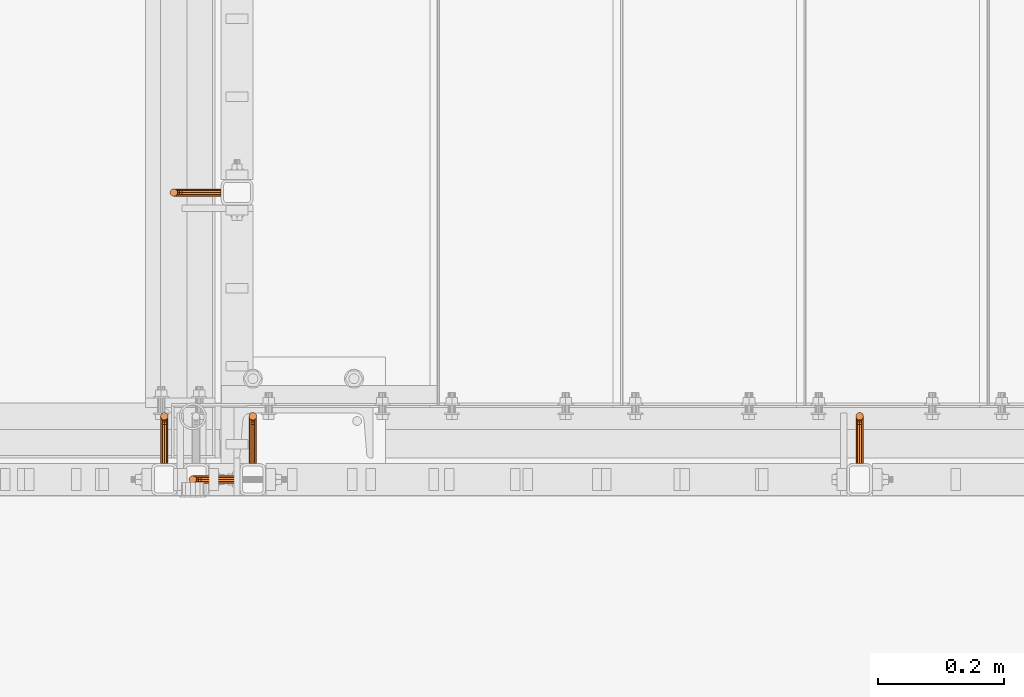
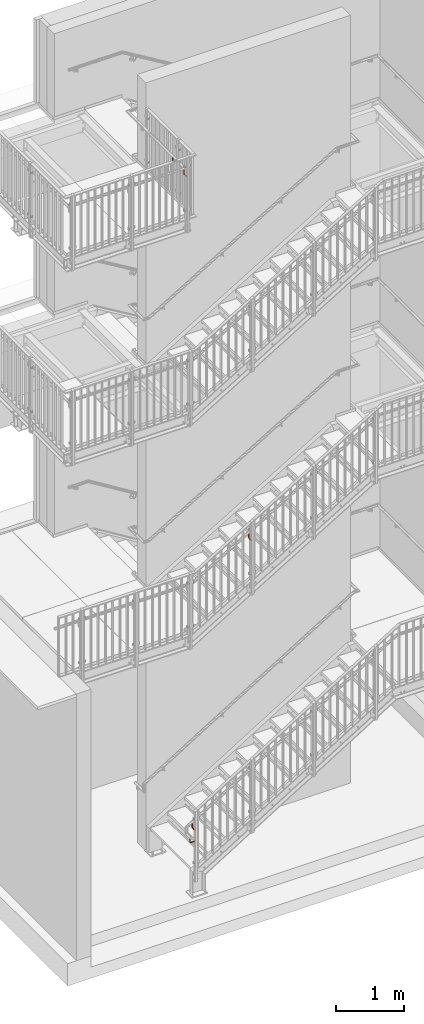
# One storey, part 372 of 410: 5 proxies.
"""IFC2X3 building model written with IfcOpenShell, lengths in millimetres."""

from ifc_helpers import new_model, entity, si_unit, converted_unit, origin_with_axes, place, context, project, spatial, faceted_brep, element, save


model = new_model("IFC2X3")

# Units and contexts
model_context = context("Model", 3, precision=1e-09, world=origin_with_axes())
ifc_project = project(units=[si_unit("LENGTHUNIT", "METRE", prefix="MILLI"), si_unit("AREAUNIT", "SQUARE_METRE"), si_unit("VOLUMEUNIT", "CUBIC_METRE"), converted_unit("PLANEANGLEUNIT", "DEGREE", entity("IfcPlaneAngleMeasure", 0.01745329), si_unit("PLANEANGLEUNIT", "RADIAN"), dimensions=[0, 0, 0, 0, 0, 0, 0])], contexts=[model_context])

# Site, building, storey
site_placement = place(None, origin_with_axes())
site = spatial("IfcSite", under=ifc_project, at=site_placement, Name="mKR Teilneubau & Sanierung BA1 - Ostfildern", CompositionType="ELEMENT")
building_placement = place(site_placement, origin_with_axes())
building = spatial("IfcBuilding", under=site, at=building_placement, Name="Struktur 1", CompositionType="ELEMENT")
storey_placement = place(building_placement, origin_with_axes())
storey = spatial("IfcBuildingStorey", under=building, at=storey_placement, Name="Default Storey", CompositionType="ELEMENT", Elevation=0.0)

# Proxies
proxy_1_placement = place(None, origin_with_axes())
element("IfcBuildingElementProxy", 1, at=proxy_1_placement, inside=storey, ObjectType="-", context=model_context, shape_type="Brep", body=[
    faceted_brep([(-740.194684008, 15430.999999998, 1307.875257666), (-737.998531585, 15430.999999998, 1305.679105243), (-734.998531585, 15430.999999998, 1304.875257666), (-731.998531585, 15430.999999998, 1305.679105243), (-729.802379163, 15430.999999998, 1307.875257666), (-728.998531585, 15430.999999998, 1310.875257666), (-729.802379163, 15430.999999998, 1313.875257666), (-731.998531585, 15430.999999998, 1316.071410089), (-734.998531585, 15430.999999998, 1316.875257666), (-737.998531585, 15430.999999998, 1316.071410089), (-740.194684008, 15430.999999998, 1313.875257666), (-740.998531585, 15430.999999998, 1310.875257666), (-731.998531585, 15487.999999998, 1316.071410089), (-729.802379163, 15487.999999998, 1313.875257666), (-737.998531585, 15487.999999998, 1316.071410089), (-740.194684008, 15487.999999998, 1313.875257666), (-734.998531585, 15487.999999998, 1316.875257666), (-729.802379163, 15493.740251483, 1315.017064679), (-731.998531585, 15492.899820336, 1317.046044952), (-740.998531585, 15487.999999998, 1310.875257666), (-734.998531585, 15492.592201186, 1317.788703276), (-728.998531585, 15487.999999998, 1310.875257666), (-731.998531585, 15497.053687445, 1319.821570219), (-734.998531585, 15496.485281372, 1320.389976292), (-737.998531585, 15492.899820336, 1317.046044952), (-740.194684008, 15493.740251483, 1315.017064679), (-731.998531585, 15499.829212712, 1323.975437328), (-734.998531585, 15499.086554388, 1324.283056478), (-728.998531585, 15494.888301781, 1312.245426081), (-729.802379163, 15498.606601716, 1318.268655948), (-729.802379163, 15487.999999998, 1307.875257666), (-731.998531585, 15487.999999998, 1305.679105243), (-734.998531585, 15487.999999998, 1304.875257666), (-737.998531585, 15487.999999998, 1305.679105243), (-740.194684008, 15487.999999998, 1307.875257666), (-740.998531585, 15494.888301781, 1312.245426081), (-737.998531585, 15497.053687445, 1319.821570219), (-737.998531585, 15499.829212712, 1323.975437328), (-737.29463218, 15500.456722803, 1380.890457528), (-737.998531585, 15500.803847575, 1328.875257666), (-734.998531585, 15499.999999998, 1328.875257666), (-734.998531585, 15499.999999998, 1382.270093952), (-730.755890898, 15510.242640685, 1384.819329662), (-732.702430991, 15511.543277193, 1383.649730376), (-734.998531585, 15511.999999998, 1382.270093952), (-737.29463218, 15511.543277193, 1380.890457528), (-739.241172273, 15510.242640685, 1379.720858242), (-740.541808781, 15508.296100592, 1378.939356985), (-740.998531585, 15505.999999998, 1378.664930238), (-740.541808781, 15503.703899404, 1378.939356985), (-739.241172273, 15501.757359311, 1379.720858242), (-732.702430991, 15500.456722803, 1383.649730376), (-730.755890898, 15501.757359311, 1384.819329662), (-729.45525439, 15503.703899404, 1385.600830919), (-728.998531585, 15505.999999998, 1385.875257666), (-729.45525439, 15508.296100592, 1385.600830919), (-740.194684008, 15496.036352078, 1309.473787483), (-740.194684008, 15498.606601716, 1318.268655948), (-740.998531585, 15500.727922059, 1316.147335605), (-731.998531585, 15500.803847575, 1328.875257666), (-729.802379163, 15501.858192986, 1323.135006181), (-729.802379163, 15496.036352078, 1309.473787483), (-728.998531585, 15500.727922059, 1316.147335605), (-731.998531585, 15496.876783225, 1307.44480721), (-734.998531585, 15497.184402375, 1306.702148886), (-737.998531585, 15496.876783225, 1307.44480721), (-740.194684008, 15502.849242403, 1314.026015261), (-740.194684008, 15502.999999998, 1328.875257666), (-740.194684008, 15501.858192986, 1323.135006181), (-737.998531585, 15504.402156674, 1312.473100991), (-740.998531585, 15504.629831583, 1321.986955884), (-740.194684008, 15507.401470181, 1320.838905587), (-729.802379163, 15502.999999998, 1328.875257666), (-728.998531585, 15504.629831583, 1321.986955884), (-729.802379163, 15502.849242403, 1314.026015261), (-731.998531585, 15504.402156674, 1312.473100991), (-734.998531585, 15504.970562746, 1311.904694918), (-737.998531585, 15509.430450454, 1319.998474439), (-740.998531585, 15505.999999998, 1328.875257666), (-734.998531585, 15510.173108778, 1319.690855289), (-740.194684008, 15508.999999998, 1328.875257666), (-737.998531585, 15511.196152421, 1328.875257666), (-728.998531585, 15505.999999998, 1328.875257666), (-729.802379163, 15507.401470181, 1320.838905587), (-731.998531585, 15509.430450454, 1319.998474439), (-734.998531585, 15511.999999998, 1328.875257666), (-731.998531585, 15511.196152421, 1328.875257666), (-729.802379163, 15508.999999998, 1328.875257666)], [[[0, 1, 2, 3, 4, 5, 6, 7, 8, 9, 10, 11]], [[12, 7, 6, 13]], [[9, 14, 15, 10]], [[8, 16, 14, 9]], [[7, 12, 16, 8]], [[12, 13, 17, 18]], [[10, 15, 19, 11]], [[18, 20, 16, 12]], [[13, 6, 5, 21]], [[22, 23, 20, 18]], [[15, 14, 24, 25]], [[14, 16, 20, 24]], [[23, 22, 26, 27]], [[13, 21, 28, 17]], [[18, 17, 29, 22]], [[4, 30, 21, 5]], [[3, 31, 30, 4]], [[2, 32, 31, 3]], [[1, 33, 32, 2]], [[0, 34, 33, 1]], [[11, 19, 34, 0]], [[19, 15, 25, 35]], [[23, 36, 24, 20]], [[27, 37, 36, 23]], [[38, 39, 40]], [[40, 39, 37, 27]], [[41, 38, 40]], [[42, 43, 44, 45, 46, 47, 48, 49, 50, 38, 41, 51, 52, 53, 54, 55]], [[35, 56, 34, 19]], [[35, 25, 57, 58]], [[25, 24, 36, 57]], [[38, 50, 39]], [[27, 26, 59, 40]], [[22, 29, 60, 26]], [[21, 30, 61, 28]], [[17, 28, 62, 29]], [[51, 41, 40]], [[30, 31, 63, 61]], [[31, 32, 64, 63]], [[32, 33, 65, 64]], [[33, 34, 56, 65]], [[56, 35, 58, 66]], [[39, 67, 68, 37]], [[37, 68, 57, 36]], [[50, 67, 39]], [[51, 40, 59]], [[66, 69, 65, 56]], [[66, 58, 70, 71]], [[58, 57, 68, 70]], [[50, 49, 67]], [[26, 60, 72, 59]], [[29, 62, 73, 60]], [[28, 61, 74, 62]], [[52, 51, 59]], [[61, 63, 75, 74]], [[63, 64, 76, 75]], [[64, 65, 69, 76]], [[69, 66, 71, 77]], [[67, 78, 70, 68]], [[49, 78, 67]], [[52, 59, 72]], [[77, 79, 76, 69]], [[77, 71, 80, 81]], [[71, 70, 78, 80]], [[49, 48, 78]], [[60, 73, 82, 72]], [[62, 74, 83, 73]], [[53, 52, 72]], [[74, 75, 84, 83]], [[75, 76, 79, 84]], [[79, 77, 81, 85]], [[45, 44, 85]], [[48, 47, 78]], [[53, 72, 82]], [[85, 86, 84, 79]], [[44, 43, 85]], [[45, 85, 81]], [[46, 81, 80]], [[47, 80, 78]], [[73, 83, 87, 82]], [[54, 53, 82]], [[83, 84, 86, 87]], [[43, 86, 85]], [[46, 45, 81]], [[47, 46, 80]], [[54, 82, 55]], [[43, 42, 86]], [[55, 82, 87]], [[42, 87, 86]], [[42, 55, 87]]]),
])
proxy_2_placement = place(None, origin_with_axes())
element("IfcBuildingElementProxy", 2, at=proxy_2_placement, inside=storey, ObjectType="-", context=model_context, shape_type="Brep", body=[
    faceted_brep([(-1700.194684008, 15430.999999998, -3559.333737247), (-1697.998531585, 15430.999999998, -3561.529889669), (-1694.998531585, 15430.999999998, -3562.333737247), (-1691.998531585, 15430.999999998, -3561.529889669), (-1689.802379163, 15430.999999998, -3559.333737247), (-1688.998531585, 15430.999999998, -3556.333737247), (-1689.802379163, 15430.999999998, -3553.333737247), (-1691.998531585, 15430.999999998, -3551.137584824), (-1694.998531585, 15430.999999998, -3550.333737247), (-1697.998531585, 15430.999999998, -3551.137584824), (-1700.194684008, 15430.999999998, -3553.333737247), (-1700.998531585, 15430.999999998, -3556.333737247), (-1691.998531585, 15487.999999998, -3551.137584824), (-1689.802379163, 15487.999999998, -3553.333737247), (-1697.998531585, 15487.999999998, -3551.137584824), (-1700.194684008, 15487.999999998, -3553.333737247), (-1694.998531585, 15487.999999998, -3550.333737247), (-1689.802379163, 15493.740251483, -3552.191930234), (-1691.998531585, 15492.899820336, -3550.162949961), (-1700.998531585, 15487.999999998, -3556.333737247), (-1694.998531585, 15492.592201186, -3549.420291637), (-1688.998531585, 15487.999999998, -3556.333737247), (-1691.998531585, 15497.053687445, -3547.387424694), (-1694.998531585, 15496.485281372, -3546.819018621), (-1697.998531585, 15492.899820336, -3550.162949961), (-1700.194684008, 15493.740251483, -3552.191930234), (-1691.998531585, 15499.829212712, -3543.233557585), (-1694.998531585, 15499.086554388, -3542.925938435), (-1688.998531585, 15494.88830178, -3554.963568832), (-1689.802379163, 15498.606601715, -3548.940338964), (-1689.802379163, 15487.999999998, -3559.333737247), (-1691.998531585, 15487.999999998, -3561.529889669), (-1694.998531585, 15487.999999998, -3562.333737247), (-1697.998531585, 15487.999999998, -3561.529889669), (-1700.194684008, 15487.999999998, -3559.333737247), (-1700.998531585, 15494.88830178, -3554.963568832), (-1697.998531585, 15497.053687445, -3547.387424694), (-1697.998531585, 15499.829212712, -3543.233557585), (-1697.29463218, 15500.456722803, -3486.318537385), (-1697.998531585, 15500.803847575, -3538.333737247), (-1694.998531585, 15499.999999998, -3538.333737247), (-1694.998531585, 15499.999999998, -3484.938900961), (-1690.755890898, 15510.242640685, -3482.389665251), (-1692.702430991, 15511.543277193, -3483.559264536), (-1694.998531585, 15511.999999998, -3484.938900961), (-1697.29463218, 15511.543277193, -3486.318537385), (-1699.241172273, 15510.242640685, -3487.48813667), (-1700.54180878, 15508.296100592, -3488.269637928), (-1700.998531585, 15505.999999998, -3488.544064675), (-1700.54180878, 15503.703899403, -3488.269637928), (-1699.241172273, 15501.75735931, -3487.48813667), (-1692.702430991, 15500.456722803, -3483.559264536), (-1690.755890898, 15501.75735931, -3482.389665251), (-1689.45525439, 15503.703899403, -3481.608163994), (-1688.998531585, 15505.999999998, -3481.333737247), (-1689.45525439, 15508.296100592, -3481.608163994), (-1700.194684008, 15496.036352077, -3557.735207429), (-1700.194684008, 15498.606601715, -3548.940338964), (-1700.998531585, 15500.727922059, -3551.061659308), (-1691.998531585, 15500.803847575, -3538.333737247), (-1689.802379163, 15501.858192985, -3544.073988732), (-1689.802379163, 15496.036352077, -3557.735207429), (-1688.998531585, 15500.727922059, -3551.061659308), (-1691.998531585, 15496.876783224, -3559.764187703), (-1694.998531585, 15497.184402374, -3560.506846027), (-1697.998531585, 15496.876783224, -3559.764187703), (-1700.194684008, 15502.849242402, -3553.182979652), (-1700.194684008, 15502.999999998, -3538.333737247), (-1700.194684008, 15501.858192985, -3544.073988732), (-1697.998531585, 15504.402156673, -3554.735893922), (-1700.998531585, 15504.629831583, -3545.222039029), (-1700.194684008, 15507.40147018, -3546.370089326), (-1689.802379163, 15502.999999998, -3538.333737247), (-1688.998531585, 15504.629831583, -3545.222039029), (-1689.802379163, 15502.849242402, -3553.182979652), (-1691.998531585, 15504.402156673, -3554.735893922), (-1694.998531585, 15504.970562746, -3555.304299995), (-1697.998531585, 15509.430450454, -3547.210520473), (-1700.998531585, 15505.999999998, -3538.333737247), (-1694.998531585, 15510.173108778, -3547.518139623), (-1700.194684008, 15508.999999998, -3538.333737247), (-1697.998531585, 15511.19615242, -3538.333737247), (-1688.998531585, 15505.999999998, -3538.333737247), (-1689.802379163, 15507.40147018, -3546.370089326), (-1691.998531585, 15509.430450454, -3547.210520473), (-1694.998531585, 15511.999999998, -3538.333737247), (-1691.998531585, 15511.19615242, -3538.333737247), (-1689.802379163, 15508.999999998, -3538.333737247)], [[[0, 1, 2, 3, 4, 5, 6, 7, 8, 9, 10, 11]], [[12, 7, 6, 13]], [[9, 14, 15, 10]], [[8, 16, 14, 9]], [[7, 12, 16, 8]], [[12, 13, 17, 18]], [[10, 15, 19, 11]], [[18, 20, 16, 12]], [[13, 6, 5, 21]], [[22, 23, 20, 18]], [[15, 14, 24, 25]], [[14, 16, 20, 24]], [[23, 22, 26, 27]], [[13, 21, 28, 17]], [[18, 17, 29, 22]], [[4, 30, 21, 5]], [[3, 31, 30, 4]], [[2, 32, 31, 3]], [[1, 33, 32, 2]], [[0, 34, 33, 1]], [[11, 19, 34, 0]], [[19, 15, 25, 35]], [[23, 36, 24, 20]], [[27, 37, 36, 23]], [[38, 39, 40]], [[40, 39, 37, 27]], [[41, 38, 40]], [[42, 43, 44, 45, 46, 47, 48, 49, 50, 38, 41, 51, 52, 53, 54, 55]], [[35, 56, 34, 19]], [[35, 25, 57, 58]], [[25, 24, 36, 57]], [[38, 50, 39]], [[27, 26, 59, 40]], [[22, 29, 60, 26]], [[21, 30, 61, 28]], [[17, 28, 62, 29]], [[51, 41, 40]], [[30, 31, 63, 61]], [[31, 32, 64, 63]], [[32, 33, 65, 64]], [[33, 34, 56, 65]], [[56, 35, 58, 66]], [[39, 67, 68, 37]], [[37, 68, 57, 36]], [[50, 67, 39]], [[51, 40, 59]], [[66, 69, 65, 56]], [[66, 58, 70, 71]], [[58, 57, 68, 70]], [[50, 49, 67]], [[26, 60, 72, 59]], [[29, 62, 73, 60]], [[28, 61, 74, 62]], [[52, 51, 59]], [[61, 63, 75, 74]], [[63, 64, 76, 75]], [[64, 65, 69, 76]], [[69, 66, 71, 77]], [[67, 78, 70, 68]], [[49, 78, 67]], [[52, 59, 72]], [[77, 79, 76, 69]], [[77, 71, 80, 81]], [[71, 70, 78, 80]], [[49, 48, 78]], [[60, 73, 82, 72]], [[62, 74, 83, 73]], [[53, 52, 72]], [[74, 75, 84, 83]], [[75, 76, 79, 84]], [[79, 77, 81, 85]], [[45, 44, 85]], [[48, 47, 78]], [[53, 72, 82]], [[85, 86, 84, 79]], [[44, 43, 85]], [[45, 85, 81]], [[46, 81, 80]], [[47, 80, 78]], [[73, 83, 87, 82]], [[54, 53, 82]], [[83, 84, 86, 87]], [[43, 86, 85]], [[46, 45, 81]], [[47, 46, 80]], [[54, 82, 55]], [[43, 42, 86]], [[55, 82, 87]], [[42, 87, 86]], [[42, 55, 87]]]),
])
proxy_3_placement = place(None, origin_with_axes())
element("IfcBuildingElementProxy", 3, at=proxy_3_placement, inside=storey, ObjectType="-", context=model_context, shape_type="Brep", body=[
    faceted_brep([(-1802.0485317, 15860.0, 8238.6), (-1745.0485317, 15860.0, 8238.6), (-1745.0485317, 15863.0, 8237.796152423), (-1802.0485317, 15863.0, 8237.796152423), (-1745.0485317, 15854.803847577, 8229.6), (-1745.0485317, 15857.0, 8227.403847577), (-1745.0485317, 15860.0, 8226.6), (-1745.0485317, 15863.0, 8227.403847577), (-1745.0485317, 15865.196152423, 8229.6), (-1745.0485317, 15866.0, 8232.6), (-1745.0485317, 15865.196152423, 8235.6), (-1745.0485317, 15857.0, 8237.796152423), (-1745.0485317, 15854.803847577, 8235.6), (-1745.0485317, 15854.0, 8232.6), (-1802.0485317, 15857.0, 8237.796152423), (-1806.948352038, 15863.0, 8238.770787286), (-1806.640732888, 15860.0, 8239.51344561), (-1802.0485317, 15865.196152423, 8235.6), (-1806.948352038, 15857.0, 8238.770787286), (-1810.533813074, 15860.0, 8242.114718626), (-1811.102219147, 15857.0, 8241.546312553), (-1811.102219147, 15863.0, 8241.546312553), (-1807.788783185, 15865.196152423, 8236.741807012), (-1802.0485317, 15854.803847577, 8235.6), (-1813.13508609, 15860.0, 8246.007798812), (-1813.877744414, 15857.0, 8245.700179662), (-1814.852379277, 15857.0, 8250.6), (-1814.852379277, 15857.0, 8307.6), (-1817.0485317, 15854.803847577, 8307.6), (-1817.0485317, 15854.803847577, 8250.6), (-1814.0485317, 15860.0, 8250.6), (-1814.0485317, 15860.0, 8307.6), (-1802.0485317, 15866.0, 8232.6), (-1815.906724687, 15854.803847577, 8244.859748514), (-1807.788783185, 15854.803847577, 8236.741807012), (-1812.655133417, 15854.803847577, 8239.993398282), (-1823.0485317, 15865.196152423, 8307.6), (-1825.244684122, 15863.0, 8307.6), (-1826.0485317, 15860.0, 8307.6), (-1825.244684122, 15857.0, 8307.6), (-1823.0485317, 15854.803847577, 8307.6), (-1820.0485317, 15854.0, 8307.6), (-1814.852379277, 15863.0, 8307.6), (-1817.0485317, 15865.196152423, 8307.6), (-1820.0485317, 15866.0, 8307.6), (-1813.877744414, 15863.0, 8245.700179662), (-1808.936833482, 15866.0, 8233.970168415), (-1812.655133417, 15865.196152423, 8239.993398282), (-1802.0485317, 15854.0, 8232.6), (-1820.0485317, 15854.0, 8250.6), (-1814.852379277, 15863.0, 8250.6), (-1802.0485317, 15865.196152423, 8229.6), (-1818.678363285, 15854.0, 8243.711698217), (-1808.936833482, 15854.0, 8233.970168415), (-1814.776453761, 15854.0, 8237.872077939), (-1815.906724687, 15865.196152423, 8244.859748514), (-1810.084883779, 15865.196152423, 8231.198529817), (-1814.776453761, 15866.0, 8237.872077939), (-1802.0485317, 15863.0, 8227.403847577), (-1802.0485317, 15860.0, 8226.6), (-1802.0485317, 15857.0, 8227.403847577), (-1802.0485317, 15854.803847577, 8229.6), (-1823.0485317, 15854.803847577, 8250.6), (-1817.0485317, 15865.196152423, 8250.6), (-1821.450001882, 15854.803847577, 8242.56364792), (-1810.084883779, 15854.803847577, 8231.198529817), (-1816.897774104, 15854.803847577, 8235.750757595), (-1818.678363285, 15866.0, 8243.711698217), (-1810.925314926, 15863.0, 8229.169549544), (-1816.897774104, 15865.196152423, 8235.750757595), (-1811.232934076, 15860.0, 8228.42689122), (-1810.925314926, 15857.0, 8229.169549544), (-1825.244684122, 15857.0, 8250.6), (-1820.0485317, 15866.0, 8250.6), (-1823.478982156, 15857.0, 8241.723216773), (-1818.450688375, 15857.0, 8234.197843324), (-1821.450001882, 15865.196152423, 8242.56364792), (-1818.450688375, 15863.0, 8234.197843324), (-1826.0485317, 15860.0, 8250.6), (-1819.019094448, 15860.0, 8233.629437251), (-1823.0485317, 15865.196152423, 8250.6), (-1824.22164048, 15860.0, 8241.415597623), (-1823.478982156, 15863.0, 8241.723216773), (-1825.244684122, 15863.0, 8250.6)], [[[0, 1, 2, 3]], [[4, 5, 6, 7, 8, 9, 10, 2, 1, 11, 12, 13]], [[1, 0, 14, 11]], [[0, 3, 15, 16]], [[3, 2, 10, 17]], [[16, 18, 14, 0]], [[19, 20, 18, 16]], [[16, 15, 21, 19]], [[3, 17, 22, 15]], [[11, 14, 23, 12]], [[20, 19, 24, 25]], [[26, 27, 28, 29]], [[27, 26, 30, 31]], [[17, 10, 9, 32]], [[26, 29, 33, 25]], [[18, 34, 23, 14]], [[20, 35, 34, 18]], [[25, 33, 35, 20]], [[36, 37, 38, 39, 40, 41, 28, 27, 31, 42, 43, 44]], [[25, 24, 30, 26]], [[19, 21, 45, 24]], [[17, 32, 46, 22]], [[15, 22, 47, 21]], [[12, 23, 48, 13]], [[29, 28, 41, 49]], [[31, 30, 50, 42]], [[32, 9, 8, 51]], [[29, 49, 52, 33]], [[34, 53, 48, 23]], [[35, 54, 53, 34]], [[33, 52, 54, 35]], [[24, 45, 50, 30]], [[21, 47, 55, 45]], [[32, 51, 56, 46]], [[22, 46, 57, 47]], [[7, 58, 51, 8]], [[6, 59, 58, 7]], [[5, 60, 59, 6]], [[4, 61, 60, 5]], [[13, 48, 61, 4]], [[49, 41, 40, 62]], [[42, 50, 63, 43]], [[49, 62, 64, 52]], [[53, 65, 61, 48]], [[54, 66, 65, 53]], [[52, 64, 66, 54]], [[45, 55, 63, 50]], [[47, 57, 67, 55]], [[51, 58, 68, 56]], [[46, 56, 69, 57]], [[58, 59, 70, 68]], [[59, 60, 71, 70]], [[60, 61, 65, 71]], [[62, 40, 39, 72]], [[43, 63, 73, 44]], [[62, 72, 74, 64]], [[66, 75, 71, 65]], [[64, 74, 75, 66]], [[55, 67, 73, 63]], [[57, 69, 76, 67]], [[56, 68, 77, 69]], [[72, 39, 38, 78]], [[68, 70, 79, 77]], [[70, 71, 75, 79]], [[44, 73, 80, 36]], [[72, 78, 81, 74]], [[74, 81, 79, 75]], [[67, 76, 80, 73]], [[69, 77, 82, 76]], [[78, 38, 37, 83]], [[77, 79, 81, 82]], [[36, 80, 83, 37]], [[78, 83, 82, 81]], [[76, 82, 83, 80]]]),
])
proxy_4_placement = place(None, origin_with_axes())
element("IfcBuildingElementProxy", 4, at=proxy_4_placement, inside=storey, ObjectType="-", context=model_context, shape_type="Brep", body=[
    faceted_brep([(-1834.99853167, 15487.999999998, 8238.6), (-1834.99853167, 15430.999999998, 8238.6), (-1831.99853167, 15430.999999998, 8237.796152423), (-1831.99853167, 15487.999999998, 8237.796152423), (-1840.194684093, 15430.999999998, 8229.6), (-1837.99853167, 15430.999999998, 8227.403847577), (-1834.99853167, 15430.999999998, 8226.6), (-1831.99853167, 15430.999999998, 8227.403847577), (-1829.802379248, 15430.999999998, 8229.6), (-1828.99853167, 15430.999999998, 8232.6), (-1829.802379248, 15430.999999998, 8235.6), (-1837.99853167, 15430.999999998, 8237.796152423), (-1840.194684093, 15430.999999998, 8235.6), (-1840.99853167, 15430.999999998, 8232.6), (-1837.99853167, 15487.999999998, 8237.796152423), (-1831.99853167, 15492.899820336, 8238.770787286), (-1834.99853167, 15492.592201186, 8239.51344561), (-1829.802379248, 15487.999999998, 8235.6), (-1837.99853167, 15492.899820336, 8238.770787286), (-1834.99853167, 15496.485281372, 8242.114718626), (-1837.99853167, 15497.053687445, 8241.546312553), (-1831.99853167, 15497.053687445, 8241.546312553), (-1829.802379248, 15493.740251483, 8236.741807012), (-1840.194684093, 15487.999999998, 8235.6), (-1834.99853167, 15499.086554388, 8246.007798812), (-1837.99853167, 15499.829212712, 8245.700179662), (-1837.99853167, 15500.803847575, 8250.6), (-1837.99853167, 15500.803847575, 8307.6), (-1840.194684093, 15502.999999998, 8307.6), (-1840.194684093, 15502.999999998, 8250.6), (-1834.99853167, 15499.999999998, 8250.6), (-1834.99853167, 15499.999999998, 8307.6), (-1828.99853167, 15487.999999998, 8232.6), (-1840.194684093, 15501.858192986, 8244.859748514), (-1840.194684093, 15493.740251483, 8236.741807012), (-1840.194684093, 15498.606601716, 8239.993398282), (-1829.802379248, 15508.999999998, 8307.6), (-1831.99853167, 15511.196152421, 8307.6), (-1834.99853167, 15511.999999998, 8307.6), (-1837.99853167, 15511.196152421, 8307.6), (-1840.194684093, 15508.999999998, 8307.6), (-1840.99853167, 15505.999999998, 8307.6), (-1831.99853167, 15500.803847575, 8307.6), (-1829.802379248, 15502.999999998, 8307.6), (-1828.99853167, 15505.999999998, 8307.6), (-1831.99853167, 15499.829212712, 8245.700179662), (-1828.99853167, 15494.888301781, 8233.970168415), (-1829.802379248, 15498.606601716, 8239.993398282), (-1840.99853167, 15487.999999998, 8232.6), (-1840.99853167, 15505.999999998, 8250.6), (-1831.99853167, 15500.803847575, 8250.6), (-1829.802379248, 15487.999999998, 8229.6), (-1840.99853167, 15504.629831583, 8243.711698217), (-1840.99853167, 15494.888301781, 8233.970168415), (-1840.99853167, 15500.727922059, 8237.872077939), (-1829.802379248, 15501.858192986, 8244.859748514), (-1829.802379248, 15496.036352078, 8231.198529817), (-1828.99853167, 15500.727922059, 8237.872077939), (-1831.99853167, 15487.999999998, 8227.403847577), (-1834.99853167, 15487.999999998, 8226.6), (-1837.99853167, 15487.999999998, 8227.403847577), (-1840.194684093, 15487.999999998, 8229.6), (-1840.194684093, 15508.999999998, 8250.6), (-1829.802379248, 15502.999999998, 8250.6), (-1840.194684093, 15507.401470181, 8242.56364792), (-1840.194684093, 15496.036352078, 8231.198529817), (-1840.194684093, 15502.849242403, 8235.750757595), (-1828.99853167, 15504.629831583, 8243.711698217), (-1831.99853167, 15496.876783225, 8229.169549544), (-1829.802379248, 15502.849242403, 8235.750757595), (-1834.99853167, 15497.184402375, 8228.42689122), (-1837.99853167, 15496.876783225, 8229.169549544), (-1837.99853167, 15511.196152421, 8250.6), (-1828.99853167, 15505.999999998, 8250.6), (-1837.99853167, 15509.430450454, 8241.723216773), (-1837.99853167, 15504.402156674, 8234.197843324), (-1829.802379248, 15507.401470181, 8242.56364792), (-1831.99853167, 15504.402156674, 8234.197843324), (-1834.99853167, 15511.999999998, 8250.6), (-1834.99853167, 15504.970562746, 8233.629437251), (-1829.802379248, 15508.999999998, 8250.6), (-1834.99853167, 15510.173108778, 8241.415597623), (-1831.99853167, 15509.430450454, 8241.723216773), (-1831.99853167, 15511.196152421, 8250.6)], [[[0, 1, 2, 3]], [[4, 5, 6, 7, 8, 9, 10, 2, 1, 11, 12, 13]], [[1, 0, 14, 11]], [[0, 3, 15, 16]], [[3, 2, 10, 17]], [[16, 18, 14, 0]], [[19, 20, 18, 16]], [[16, 15, 21, 19]], [[3, 17, 22, 15]], [[11, 14, 23, 12]], [[20, 19, 24, 25]], [[26, 27, 28, 29]], [[27, 26, 30, 31]], [[17, 10, 9, 32]], [[26, 29, 33, 25]], [[18, 34, 23, 14]], [[20, 35, 34, 18]], [[25, 33, 35, 20]], [[36, 37, 38, 39, 40, 41, 28, 27, 31, 42, 43, 44]], [[25, 24, 30, 26]], [[19, 21, 45, 24]], [[17, 32, 46, 22]], [[15, 22, 47, 21]], [[12, 23, 48, 13]], [[29, 28, 41, 49]], [[31, 30, 50, 42]], [[32, 9, 8, 51]], [[29, 49, 52, 33]], [[34, 53, 48, 23]], [[35, 54, 53, 34]], [[33, 52, 54, 35]], [[24, 45, 50, 30]], [[21, 47, 55, 45]], [[32, 51, 56, 46]], [[22, 46, 57, 47]], [[7, 58, 51, 8]], [[6, 59, 58, 7]], [[5, 60, 59, 6]], [[4, 61, 60, 5]], [[13, 48, 61, 4]], [[49, 41, 40, 62]], [[42, 50, 63, 43]], [[49, 62, 64, 52]], [[53, 65, 61, 48]], [[54, 66, 65, 53]], [[52, 64, 66, 54]], [[45, 55, 63, 50]], [[47, 57, 67, 55]], [[51, 58, 68, 56]], [[46, 56, 69, 57]], [[58, 59, 70, 68]], [[59, 60, 71, 70]], [[60, 61, 65, 71]], [[62, 40, 39, 72]], [[43, 63, 73, 44]], [[62, 72, 74, 64]], [[66, 75, 71, 65]], [[64, 74, 75, 66]], [[55, 67, 73, 63]], [[57, 69, 76, 67]], [[56, 68, 77, 69]], [[72, 39, 38, 78]], [[68, 70, 79, 77]], [[70, 71, 75, 79]], [[44, 73, 80, 36]], [[72, 78, 81, 74]], [[74, 81, 79, 75]], [[67, 76, 80, 73]], [[69, 77, 82, 76]], [[78, 38, 37, 83]], [[77, 79, 81, 82]], [[36, 80, 83, 37]], [[78, 83, 82, 81]], [[76, 82, 83, 80]]]),
])
proxy_5_placement = place(None, origin_with_axes())
element("IfcBuildingElementProxy", 5, at=proxy_5_placement, inside=storey, ObjectType="-", context=model_context, shape_type="Brep", body=[
    faceted_brep([(-1771.998531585, 15405.999998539, -3731.4), (-1714.998531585, 15405.999998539, -3731.4), (-1714.998531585, 15408.999998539, -3732.203847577), (-1771.998531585, 15408.999998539, -3732.203847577), (-1714.998531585, 15400.803846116, -3740.4), (-1714.998531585, 15402.999998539, -3742.596152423), (-1714.998531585, 15405.999998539, -3743.4), (-1714.998531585, 15408.999998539, -3742.596152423), (-1714.998531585, 15411.196150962, -3740.4), (-1714.998531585, 15411.999998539, -3737.4), (-1714.998531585, 15411.196150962, -3734.4), (-1714.998531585, 15402.999998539, -3732.203847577), (-1714.998531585, 15400.803846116, -3734.4), (-1714.998531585, 15399.999998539, -3737.4), (-1771.998531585, 15402.999998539, -3732.203847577), (-1776.898351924, 15408.999998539, -3731.229212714), (-1776.590732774, 15405.999998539, -3730.48655439), (-1771.998531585, 15411.196150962, -3734.4), (-1776.898351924, 15402.999998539, -3731.229212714), (-1780.48381296, 15405.999998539, -3727.885281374), (-1781.052219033, 15402.999998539, -3728.453687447), (-1781.052219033, 15408.999998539, -3728.453687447), (-1777.738783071, 15411.196150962, -3733.258192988), (-1771.998531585, 15400.803846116, -3734.4), (-1783.085085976, 15405.999998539, -3723.992201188), (-1783.827744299, 15402.999998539, -3724.299820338), (-1784.802379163, 15402.999998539, -3719.4), (-1784.802379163, 15402.999998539, -3662.4), (-1786.998531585, 15400.803846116, -3662.4), (-1786.998531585, 15400.803846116, -3719.4), (-1783.998531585, 15405.999998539, -3719.4), (-1783.998531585, 15405.999998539, -3662.4), (-1771.998531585, 15411.999998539, -3737.4), (-1785.856724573, 15400.803846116, -3725.140251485), (-1777.738783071, 15400.803846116, -3733.258192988), (-1782.605133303, 15400.803846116, -3730.006601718), (-1792.998531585, 15411.196150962, -3662.4), (-1795.194684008, 15408.999998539, -3662.4), (-1795.998531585, 15405.999998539, -3662.4), (-1795.194684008, 15402.999998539, -3662.4), (-1792.998531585, 15400.803846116, -3662.4), (-1789.998531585, 15399.999998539, -3662.4), (-1784.802379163, 15408.999998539, -3662.4), (-1786.998531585, 15411.196150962, -3662.4), (-1789.998531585, 15411.999998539, -3662.4), (-1783.827744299, 15408.999998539, -3724.299820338), (-1778.886833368, 15411.999998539, -3736.029831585), (-1782.605133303, 15411.196150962, -3730.006601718), (-1771.998531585, 15399.999998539, -3737.4), (-1789.998531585, 15399.999998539, -3719.4), (-1784.802379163, 15408.999998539, -3719.4), (-1771.998531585, 15411.196150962, -3740.4), (-1788.628363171, 15399.999998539, -3726.288301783), (-1778.886833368, 15399.999998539, -3736.029831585), (-1784.726453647, 15399.999998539, -3732.127922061), (-1785.856724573, 15411.196150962, -3725.140251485), (-1780.034883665, 15411.196150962, -3738.801470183), (-1784.726453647, 15411.999998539, -3732.127922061), (-1771.998531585, 15408.999998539, -3742.596152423), (-1771.998531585, 15405.999998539, -3743.4), (-1771.998531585, 15402.999998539, -3742.596152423), (-1771.998531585, 15400.803846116, -3740.4), (-1792.998531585, 15400.803846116, -3719.4), (-1786.998531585, 15411.196150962, -3719.4), (-1791.400001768, 15400.803846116, -3727.43635208), (-1780.034883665, 15400.803846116, -3738.801470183), (-1786.84777399, 15400.803846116, -3734.249242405), (-1788.628363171, 15411.999998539, -3726.288301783), (-1780.875314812, 15408.999998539, -3740.830450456), (-1786.84777399, 15411.196150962, -3734.249242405), (-1781.182933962, 15405.999998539, -3741.57310878), (-1780.875314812, 15402.999998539, -3740.830450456), (-1795.194684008, 15402.999998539, -3719.4), (-1789.998531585, 15411.999998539, -3719.4), (-1793.428982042, 15402.999998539, -3728.276783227), (-1788.400688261, 15402.999998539, -3735.802156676), (-1791.400001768, 15411.196150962, -3727.43635208), (-1788.400688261, 15408.999998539, -3735.802156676), (-1795.998531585, 15405.999998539, -3719.4), (-1788.969094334, 15405.999998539, -3736.370562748), (-1792.998531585, 15411.196150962, -3719.4), (-1794.171640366, 15405.999998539, -3728.584402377), (-1793.428982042, 15408.999998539, -3728.276783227), (-1795.194684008, 15408.999998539, -3719.4)], [[[0, 1, 2, 3]], [[4, 5, 6, 7, 8, 9, 10, 2, 1, 11, 12, 13]], [[1, 0, 14, 11]], [[0, 3, 15, 16]], [[3, 2, 10, 17]], [[16, 18, 14, 0]], [[19, 20, 18, 16]], [[16, 15, 21, 19]], [[3, 17, 22, 15]], [[11, 14, 23, 12]], [[20, 19, 24, 25]], [[26, 27, 28, 29]], [[27, 26, 30, 31]], [[17, 10, 9, 32]], [[26, 29, 33, 25]], [[18, 34, 23, 14]], [[20, 35, 34, 18]], [[25, 33, 35, 20]], [[36, 37, 38, 39, 40, 41, 28, 27, 31, 42, 43, 44]], [[25, 24, 30, 26]], [[19, 21, 45, 24]], [[17, 32, 46, 22]], [[15, 22, 47, 21]], [[12, 23, 48, 13]], [[29, 28, 41, 49]], [[31, 30, 50, 42]], [[32, 9, 8, 51]], [[29, 49, 52, 33]], [[34, 53, 48, 23]], [[35, 54, 53, 34]], [[33, 52, 54, 35]], [[24, 45, 50, 30]], [[21, 47, 55, 45]], [[32, 51, 56, 46]], [[22, 46, 57, 47]], [[7, 58, 51, 8]], [[6, 59, 58, 7]], [[5, 60, 59, 6]], [[4, 61, 60, 5]], [[13, 48, 61, 4]], [[49, 41, 40, 62]], [[42, 50, 63, 43]], [[49, 62, 64, 52]], [[53, 65, 61, 48]], [[54, 66, 65, 53]], [[52, 64, 66, 54]], [[45, 55, 63, 50]], [[47, 57, 67, 55]], [[51, 58, 68, 56]], [[46, 56, 69, 57]], [[58, 59, 70, 68]], [[59, 60, 71, 70]], [[60, 61, 65, 71]], [[62, 40, 39, 72]], [[43, 63, 73, 44]], [[62, 72, 74, 64]], [[66, 75, 71, 65]], [[64, 74, 75, 66]], [[55, 67, 73, 63]], [[57, 69, 76, 67]], [[56, 68, 77, 69]], [[72, 39, 38, 78]], [[68, 70, 79, 77]], [[70, 71, 75, 79]], [[44, 73, 80, 36]], [[72, 78, 81, 74]], [[74, 81, 79, 75]], [[67, 76, 80, 73]], [[69, 77, 82, 76]], [[78, 38, 37, 83]], [[77, 79, 81, 82]], [[36, 80, 83, 37]], [[78, 83, 82, 81]], [[76, 82, 83, 80]]]),
])

save(model, "model.ifc")
